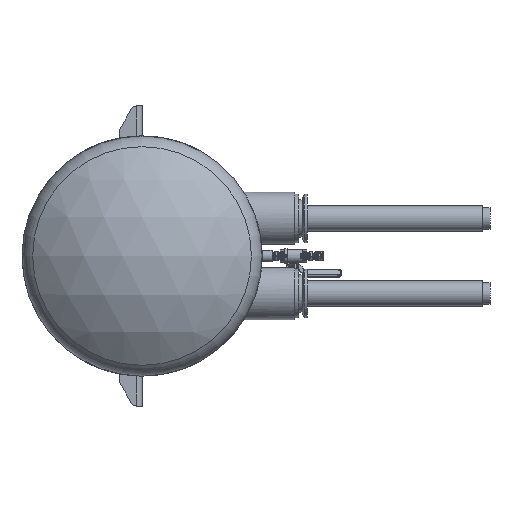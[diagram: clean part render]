
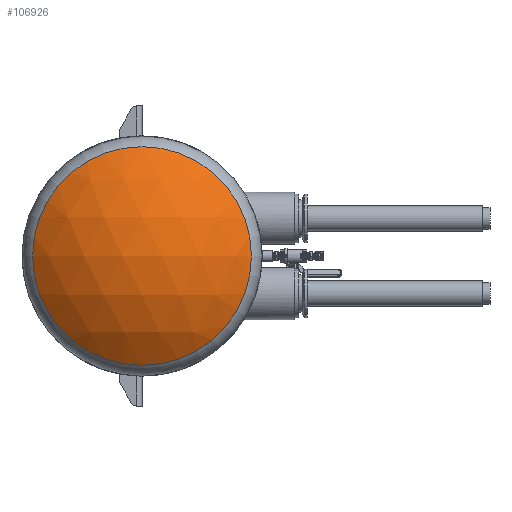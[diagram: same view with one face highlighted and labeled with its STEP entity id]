
A CAD part, left-side view. The second image highlights one B-rep face of the part: STEP entity #106926.
In plain terms, the highlighted spherical face has radius 287.38 mm.
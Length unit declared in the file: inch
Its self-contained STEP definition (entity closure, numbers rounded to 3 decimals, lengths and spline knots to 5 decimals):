
#7834 = CARTESIAN_POINT ( 'NONE',  ( -43.83975, 0., 0. ) ) ;
#10116 = CIRCLE ( 'NONE', #107765, 7.28836 ) ;
#20923 = DIRECTION ( 'NONE',  ( 0., 1., 0. ) ) ;
#24872 = VERTEX_POINT ( 'NONE', #90370 ) ;
#31416 = FACE_OUTER_BOUND ( 'NONE', #77987, .T. ) ;
#47122 = DIRECTION ( 'NONE',  ( 0., 0., 1. ) ) ;
#59357 = SPHERICAL_SURFACE ( 'NONE', #90703, 11.31418 ) ;
#77987 = EDGE_LOOP ( 'NONE', ( #100426 ) ) ;
#90370 = CARTESIAN_POINT ( 'NONE',  ( -43.83975, 0., -7.28836 ) ) ;
#90703 = AXIS2_PLACEMENT_3D ( 'NONE', #113539, #47122, #20923 ) ;
#100426 = ORIENTED_EDGE ( 'NONE', *, *, #172739, .F. ) ;
#106926 = ADVANCED_FACE ( 'NONE', ( #31416 ), #59357, .T. ) ;
#107765 = AXIS2_PLACEMENT_3D ( 'NONE', #7834, #114399, #111784 ) ;
#111784 = DIRECTION ( 'NONE',  ( 0., 0., -1. ) ) ;
#113539 = CARTESIAN_POINT ( 'NONE',  ( -35.18582, 0., 0. ) ) ;
#114399 = DIRECTION ( 'NONE',  ( 1., 0., 0. ) ) ;
#172739 = EDGE_CURVE ( 'NONE', #24872, #24872, #10116, .T. ) ;
